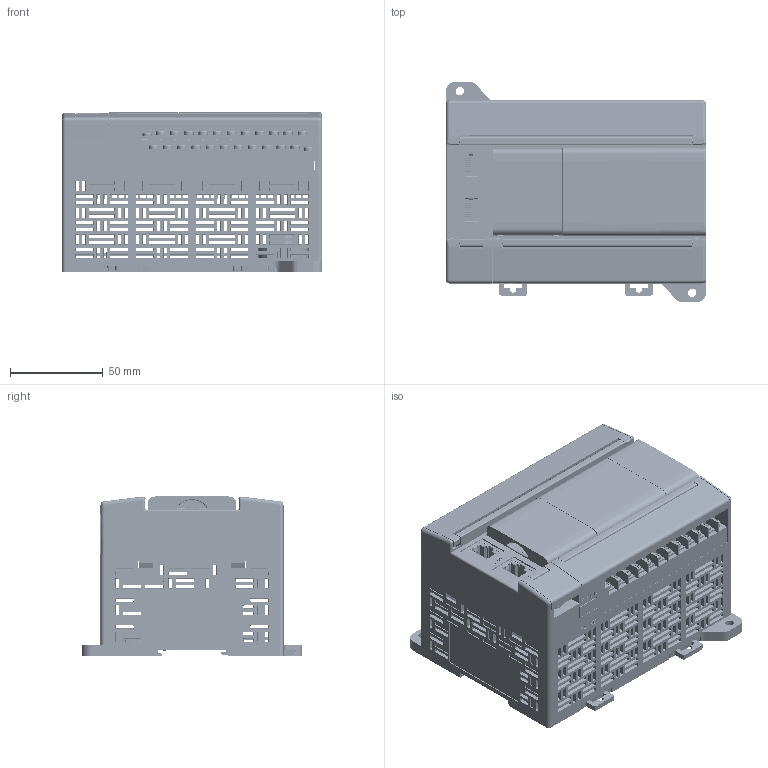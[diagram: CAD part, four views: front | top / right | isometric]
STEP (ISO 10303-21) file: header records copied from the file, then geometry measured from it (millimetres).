
FILE_DESCRIPTION((''),'2;1');
FILE_NAME('MP2-40CPU_ASM','2022-03-29T10:23:50',('Lenovo'),(''),'CREO PARAMETRIC BY PTC INC, 2020033','CREO PARAMETRIC BY PTC INC, 2020033','');
FILE_SCHEMA(('CONFIG_CONTROL_DESIGN'));
Products named in the file (27): MP2-40CPU-BASE; MP2-40CPU-COVER; MP2-40CPU-DAOGUANGZHU; GAIBAN01; MP2-40CPU-FANGAI01; MP2-40CPU-FANGAI02; MP2-40CPU-FANGAI03; KAKOU; DIANCHIHE; MP2-40CPU-PCB-P; MP2-40CPU-PCB-P_ASM; MP2-40CPU-PCB-I; JL762D-76222E03; JL762D-76230E03; MP2-40CPU-PCB-I_ASM; MP2-40CPU-PCB-U; 2X10; JIECHAJIAN; RJ45-180; MDC-8-04_6; MS-12D27-G4; TYPE-C-180; MP2-40CPU-PCB-U_ASM; DBMK; BD-BAN; DBMK_ASM; MP2-40CPU_ASM
Assembly tree (28 placements, depth 3):
  MP2-40CPU_ASM
    MP2-40CPU-BASE
    MP2-40CPU-COVER
    MP2-40CPU-DAOGUANGZHU
    GAIBAN01
    MP2-40CPU-FANGAI01
    MP2-40CPU-FANGAI02
    MP2-40CPU-FANGAI03
    KAKOU  x2
    DIANCHIHE
    MP2-40CPU-PCB-P_ASM
      MP2-40CPU-PCB-P
    MP2-40CPU-PCB-I_ASM
      MP2-40CPU-PCB-I
      JL762D-76222E03
      JL762D-76230E03
    MP2-40CPU-PCB-U_ASM
      MP2-40CPU-PCB-U
      2X10
      JIECHAJIAN
      RJ45-180  x2
      MDC-8-04_6
      MS-12D27-G4
      TYPE-C-180
    DBMK_ASM
      DBMK
      BD-BAN
Bounding box: 140.1 x 118.5 x 85.96 mm (x, y, z)
Volume: 291184.1 mm3; surface area: 305452.8 mm2
Topology: 71 solids, 132 shells, 9897 faces, 27504 edges, 18279 vertices
Faces by surface type: plane 7527, cylinder 1414, cone 720, torus 160, bspline 61, sphere 10, extrusion 5
Entity records: 309864 total; most frequent: CARTESIAN_POINT 65048, ORIENTED_EDGE 52128, DIRECTION 47810, EDGE_CURVE 26068, VECTOR 19974, LINE 19969, VERTEX_POINT 17340, AXIS2_PLACEMENT_3D 13918
